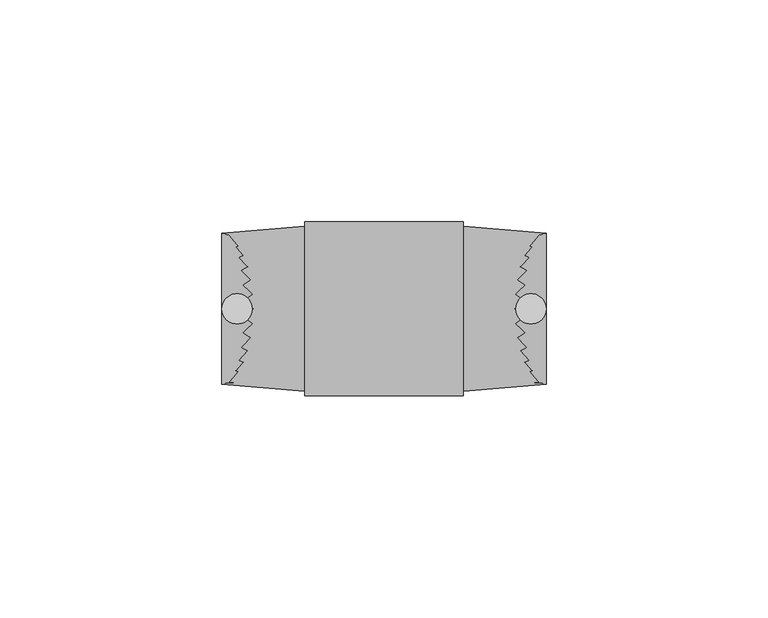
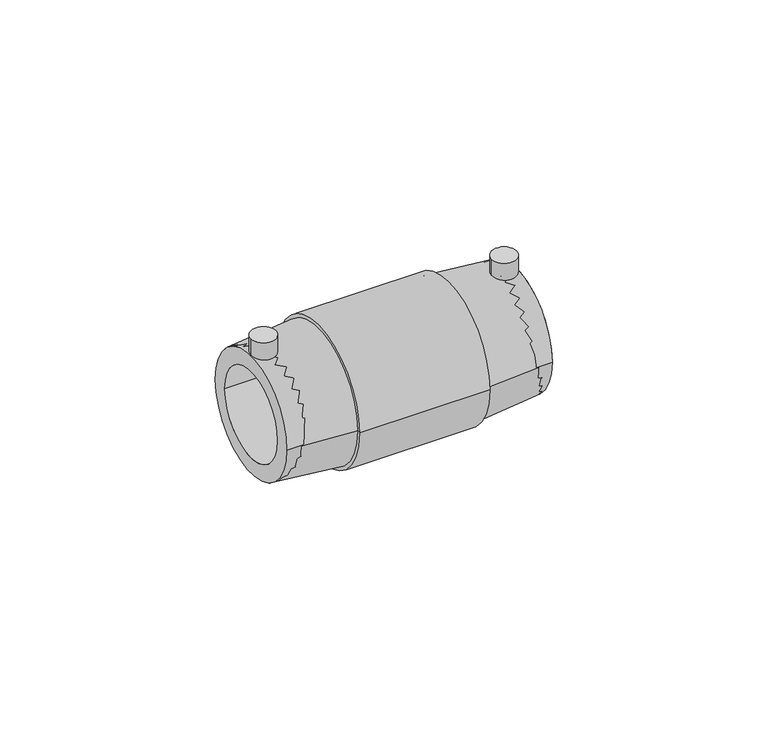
"""IFC4 building model written with IfcOpenShell, lengths in millimetres: pipe fitting geometry, EGB_VASEN_ PPR_Manguito electrosoldable WXRD100 : Manguito electrosoldable WXRD100."""

from ifc_helpers import new_model, si_unit, point, frame, frame_2d, origin, origin_2d, place, context, project, spatial, polyline, circle_curve, trimmed, segment, composite_curve, outline, extrude, source, transform, mapped, element, save
from ifc_brep_helpers import plane_surface, cylinder_surface, revolved_surface, advanced_brep


def pipe_fitting_ad3da51b(model_context):
    return source(origin(), model_context, "Body", "SolidModel", [
        extrude(outline(composite_curve([segment(trimmed(circle_curve(origin_2d(), 17.0), [point((-17.0, 0.0))], [point((17.0, 0.0))], False, "CARTESIAN"), True, "CONTINUOUS"), segment(trimmed(circle_curve(origin_2d(), 17.0), [point((17.0, 0.0))], [point((-17.0, 0.0))], False, "CARTESIAN"), True, "CONTINUOUS")], self_intersect=False), holes=[composite_curve([segment(trimmed(circle_curve(origin_2d(), 12.5), [point((-12.5, 0.0))], [point((12.5, 0.0))], True, "CARTESIAN"), True, "CONTINUOUS"), segment(trimmed(circle_curve(origin_2d(), 12.5), [point((12.5, 0.0))], [point((-12.5, 0.0))], True, "CARTESIAN"), True, "CONTINUOUS")], self_intersect=False)]), frame((-36.5, 0.0, 0.0), z_axis=(1.0, 0.0, 0.0), x_axis=(0.0, 1.0, 0.0)), (0.0, 0.0, 1.0), 73.0),
        extrude(outline(composite_curve([segment(trimmed(circle_curve(frame_2d((-33.0878802, 0.0)), 3.4121198), [point((-36.5, 0.0))], [point((-29.6757605, 0.0))], False, "CARTESIAN"), True, "CONTINUOUS"), segment(trimmed(circle_curve(frame_2d((-33.0878802, 0.0)), 3.4121198), [point((-29.6757605, 0.0))], [point((-36.5, 0.0))], False, "CARTESIAN"), True, "CONTINUOUS")], self_intersect=False)), frame((0.0, 0.0, 14.5), z_axis=(0.0, 0.0, 1.0), x_axis=(1.0, 0.0, 0.0)), (0.0, 0.0, 1.0), 7.5),
        extrude(outline(composite_curve([segment(trimmed(circle_curve(frame_2d((33.0878802, 0.0)), 3.4121198), [point((29.6757605, 0.0))], [point((36.5, 0.0))], False, "CARTESIAN"), True, "CONTINUOUS"), segment(trimmed(circle_curve(frame_2d((33.0878802, 0.0)), 3.4121198), [point((36.5, 0.0))], [point((29.6757605, 0.0))], False, "CARTESIAN"), True, "CONTINUOUS")], self_intersect=False)), frame((0.0, 0.0, 14.5), z_axis=(0.0, 0.0, 1.0), x_axis=(1.0, 0.0, 0.0)), (0.0, 0.0, 1.0), 7.5),
        advanced_brep(
        [(17.85, -18.582849, 0.0), (17.85, 18.582849, 0.0), (36.5, 17.0, 0.0), (36.5, -17.0, 0.0), (17.85, -19.582849, 0.0), (17.85, 19.582849, 0.0), (-17.85, -19.582849, 0.0), (-17.85, 19.582849, 0.0), (-17.85, -18.582849, 0.0), (-17.85, 18.582849, 0.0), (-36.5, -17.0, 0.0), (-36.5, 17.0, 0.0)],
        [
            (0, 1, circle_curve(frame((17.85, 0.0, 0.0), z_axis=(1.0, 0.0, 0.0), x_axis=(0.0, 1.0, 0.0)), 18.582849)),
            (1, 2),
            (2, 3, circle_curve(frame((36.5, 0.0, 0.0), z_axis=(-1.0, 0.0, 0.0), x_axis=(0.0, 1.0, 0.0)), 17.0)),
            (3, 0),
            (1, 0, circle_curve(frame((17.85, 0.0, 0.0), z_axis=(1.0, 0.0, 0.0), x_axis=(0.0, 1.0, 0.0)), 18.582849)),
            (3, 2, circle_curve(frame((36.5, 0.0, 0.0), z_axis=(-1.0, 0.0, 0.0), x_axis=(0.0, 1.0, 0.0)), 17.0)),
            (4, 5, circle_curve(frame((17.85, 0.0, 0.0), z_axis=(1.0, 0.0, 0.0), x_axis=(0.0, 1.0, 0.0)), 19.582849)),
            (5, 1),
            (0, 4),
            (5, 4, circle_curve(frame((17.85, 0.0, 0.0), z_axis=(1.0, 0.0, 0.0), x_axis=(0.0, 1.0, 0.0)), 19.582849)),
            (6, 7, circle_curve(frame((-17.85, 0.0, 0.0), z_axis=(1.0, 0.0, 0.0), x_axis=(0.0, 1.0, 0.0)), 19.582849)),
            (7, 5),
            (4, 6),
            (7, 6, circle_curve(frame((-17.85, 0.0, 0.0), z_axis=(1.0, 0.0, 0.0), x_axis=(0.0, 1.0, 0.0)), 19.582849)),
            (8, 9, circle_curve(frame((-17.85, 0.0, 0.0), z_axis=(1.0, 0.0, 0.0), x_axis=(0.0, 1.0, 0.0)), 18.582849)),
            (9, 7),
            (6, 8),
            (9, 8, circle_curve(frame((-17.85, 0.0, 0.0), z_axis=(1.0, 0.0, 0.0), x_axis=(0.0, 1.0, 0.0)), 18.582849)),
            (10, 11, circle_curve(frame((-36.5, 0.0, 0.0), z_axis=(1.0, 0.0, 0.0), x_axis=(0.0, 1.0, 0.0)), 17.0)),
            (11, 9),
            (8, 10),
            (11, 10, circle_curve(frame((-36.5, 0.0, 0.0), z_axis=(1.0, 0.0, 0.0), x_axis=(0.0, 1.0, 0.0)), 17.0)),
            (2, 11),
            (10, 3),
        ],
        [
            revolved_surface(polyline([(36.5, 17.0, 0.0), (17.85, 18.582849, 0.0)]), (-30.2721997, 0.0, 0.0), (-1.0, 0.0, 0.0)),
            plane_surface(frame((17.85, 0.0, 0.0), z_axis=(1.0, 0.0, 0.0), x_axis=(0.0, 1.0, 0.0))),
            cylinder_surface(frame((-30.2721997, 0.0, 0.0), z_axis=(-1.0, 0.0, 0.0), x_axis=(0.0, 1.0, 0.0)), 19.582849),
            plane_surface(frame((-17.85, 0.0, 0.0), z_axis=(-1.0, 0.0, 0.0), x_axis=(0.0, 1.0, 0.0))),
            revolved_surface(polyline([(-17.85, 18.582849, 0.0), (-36.5, 17.0, 0.0)]), (-30.2721997, 0.0, 0.0), (-1.0, 0.0, 0.0)),
            revolved_surface(polyline([(-36.5, 17.0, 0.0), (36.5, 17.0, 0.0)]), (-30.2721997, 0.0, 0.0), (-1.0, 0.0, 0.0)),
        ],
        [
            (0, [[1, 2, 3, 4]]),
            (0, [[5, -4, 6, -2]]),
            (1, [[7, 8, -1, 9]]),
            (1, [[10, -9, -5, -8]]),
            (2, [[11, 12, -7, 13]]),
            (2, [[14, -13, -10, -12]]),
            (3, [[15, 16, -11, 17]]),
            (3, [[18, -17, -14, -16]]),
            (4, [[19, 20, -15, 21]]),
            (4, [[22, -21, -18, -20]]),
            (5, [[-3, 23, -19, 24]]),
            (5, [[-6, -24, -22, -23]]),
        ],
    ),
    ])


if __name__ == "__main__":
    model = new_model("IFC4")
    model_context = context("Model", 3, world=origin())
    ifc_project = project(units=[si_unit("LENGTHUNIT", "METRE", prefix="MILLI")], contexts=[model_context])
    site = spatial("IfcSite", under=ifc_project)
    building = spatial("IfcBuilding", under=site)
    placement = place(None, origin())
    pipe_fitting_shape = pipe_fitting_ad3da51b(model_context)
    element("IfcPipeFitting", 1, ObjectType="EGB_VASEN_ PPR_Manguito electrosoldable WXRD100 : Manguito electrosoldable WXRD100", at=placement, inside=building, context=model_context, shape_type="MappedRepresentation", body=[
        mapped(pipe_fitting_shape, transform((0.0, 0.0, 0.0), x_axis=(1.0, 0.0, 0.0), y_axis=(0.0, 1.0, 0.0), z_axis=(0.0, 0.0, 1.0))),
    ])
    save(model, "model.ifc")
